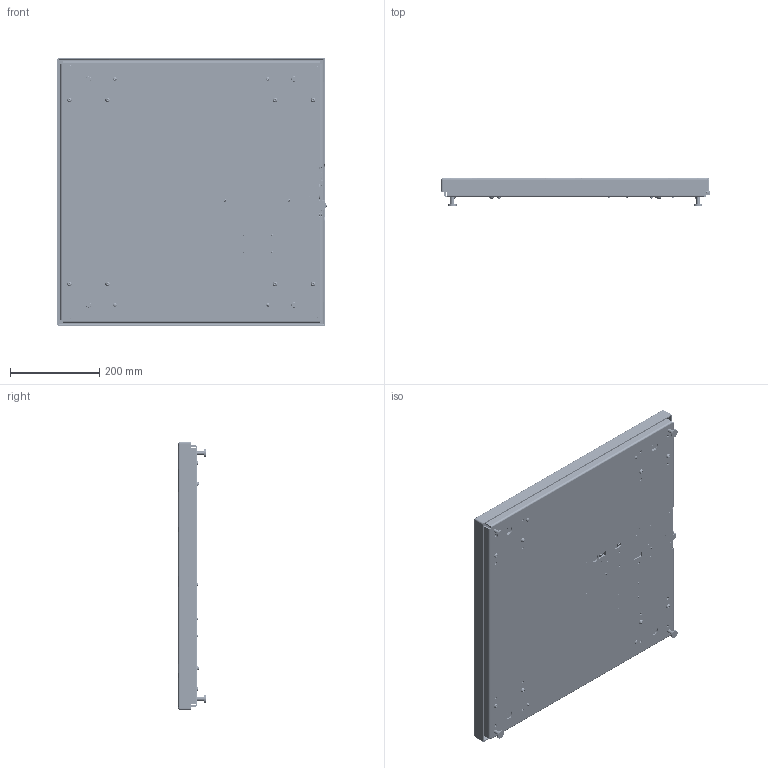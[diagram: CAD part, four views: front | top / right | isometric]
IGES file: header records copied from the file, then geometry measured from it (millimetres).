
Start section: SolidWorks IGES file using analytic representation for surfaces
Global section: file name: C:\0_Work\SolidWorks\~0_E-Scales\24x24\E-SCALE-6500PB-2424-330.IGS; native system: SolidWorks 2017; preprocessor: SolidWorks 2017; author: vach01; date: 190827.161346; units: millimetre
Bounding box: 603.77 x 61.68 x 600 mm (x, y, z)
Surface area: 1931420.1 mm2 (no closed solid volume)
Topology: 0 solids, 0 shells, 20625 faces, 169351 edges, 169184 vertices
Faces by surface type: bspline 16233, revolution 4392
